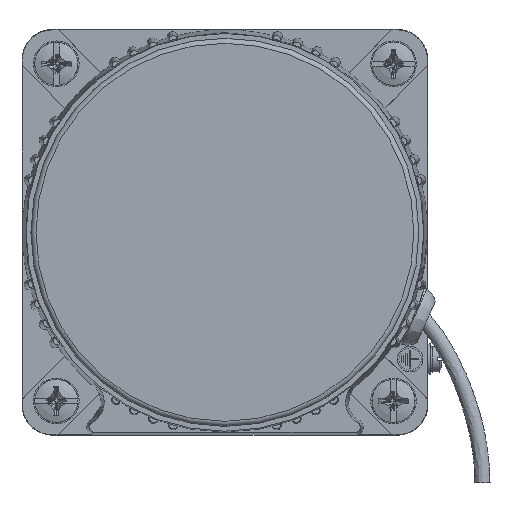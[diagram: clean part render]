
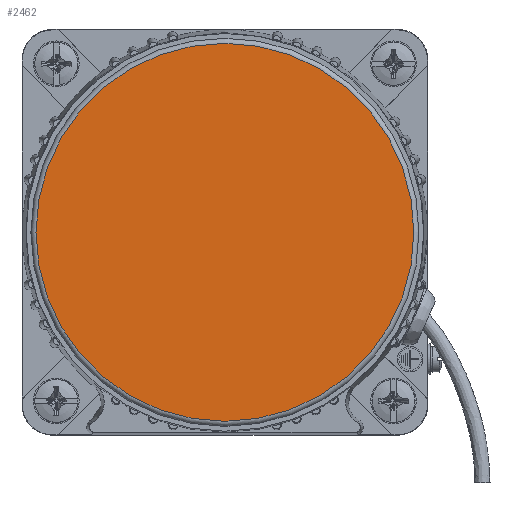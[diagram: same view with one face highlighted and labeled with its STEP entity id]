
A CAD part, left-side view. The second image highlights one B-rep face of the part: STEP entity #2462.
In plain terms, the highlighted planar face has unit normal (-1, 0, 0).
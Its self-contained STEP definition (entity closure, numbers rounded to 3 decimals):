
#2462=ADVANCED_FACE('',(#3381),#2933,.F.);
#2933=PLANE('',#13113);
#3381=FACE_OUTER_BOUND('',#4195,.T.);
#4195=EDGE_LOOP('',(#6726));
#6726=ORIENTED_EDGE('',*,*,#10512,.T.);
#8965=VERTEX_POINT('',#21219);
#10512=EDGE_CURVE('',#8965,#8965,#12406,.T.);
#12406=CIRCLE('',#13112,37.25);
#13112=AXIS2_PLACEMENT_3D('',#21218,#14889,#14890);
#13113=AXIS2_PLACEMENT_3D('',#21220,#14891,#14892);
#14889=DIRECTION('',(-1.,0.,0.));
#14890=DIRECTION('',(0.,0.,-1.));
#14891=DIRECTION('',(1.,0.,0.));
#14892=DIRECTION('',(0.,0.,-1.));
#21218=CARTESIAN_POINT('',(-86.,40.,40.));
#21219=CARTESIAN_POINT('',(-86.,40.,2.75));
#21220=CARTESIAN_POINT('',(-86.,40.,78.25));
